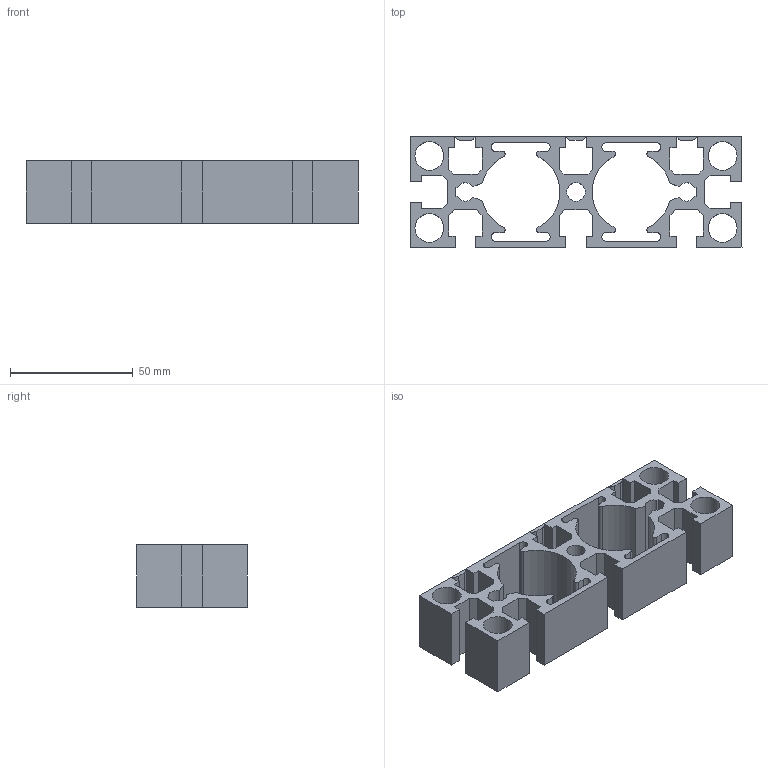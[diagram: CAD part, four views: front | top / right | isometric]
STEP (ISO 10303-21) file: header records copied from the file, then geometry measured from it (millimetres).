
FILE_DESCRIPTION((''),'2;1');
FILE_NAME('C:\Documents and Settings\Administrator\My Documents\Andys Backup Data\WEBSITE\DREAMWEAVER\MiniTec\Products\Aluminum_Profiles\CAD\STEP\20.1078 45X135 G.stp','2012-11-13T09:36:46',('Administrator'),(''),'Autodesk Inventor 2009','Autodesk Inventor 2009','');
FILE_SCHEMA(('AUTOMOTIVE_DESIGN { 1 0 10303 214 1 1 1 1 }'));
Length unit declared in the file: inch
Products named in the file (1): 20.1078 45X135 G
Bounding box: 135 x 45 x 25.4 mm (x, y, z)
Volume: 52937.2 mm3; surface area: 35892.4 mm2
Topology: 1 solids, 1 shells, 157 faces, 465 edges, 310 vertices
Faces by surface type: plane 120, cylinder 37
Full cylindrical faces by diameter (mm): 7.5 x1, 11.7 x4
Entity records: 5256 total; most frequent: CARTESIAN_POINT 928, ORIENTED_EDGE 920, DIRECTION 850, EDGE_CURVE 460, VECTOR 386, LINE 386, VERTEX_POINT 310, AXIS2_PLACEMENT_3D 232
